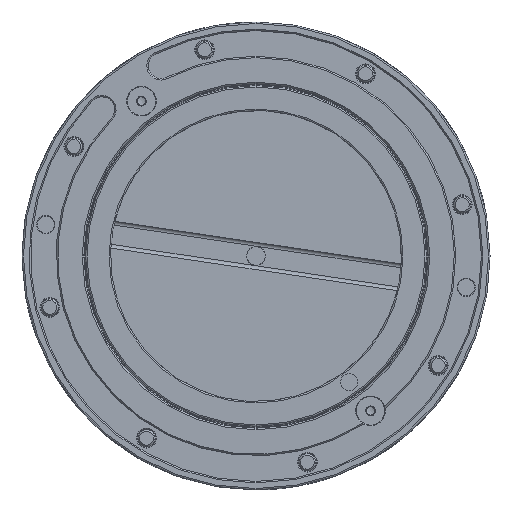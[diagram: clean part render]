
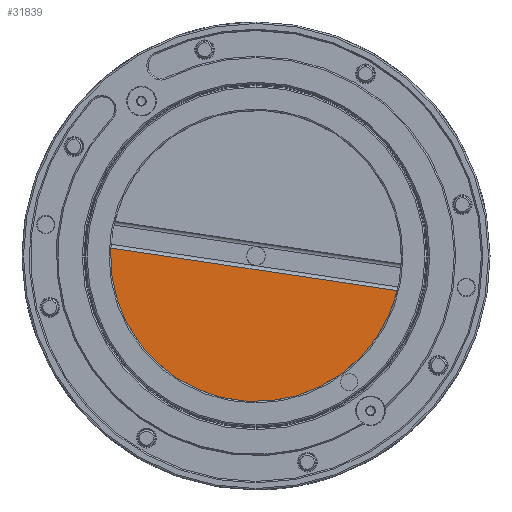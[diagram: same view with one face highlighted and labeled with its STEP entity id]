
A CAD part, front view. The second image highlights one B-rep face of the part: STEP entity #31839.
In plain terms, the highlighted planar face has unit normal (0, -1, 0).
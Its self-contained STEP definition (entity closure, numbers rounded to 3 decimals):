
#1278 = ORIENTED_EDGE ( 'NONE', *, *, #27400, .T. ) ;
#2157 = EDGE_LOOP ( 'NONE', ( #41761, #1278 ) ) ;
#4261 = VERTEX_POINT ( 'NONE', #34700 ) ;
#6732 = VECTOR ( 'NONE', #37713, 1000. ) ;
#7613 = AXIS2_PLACEMENT_3D ( 'NONE', #36793, #16376, #40212 ) ;
#9201 = CIRCLE ( 'NONE', #19616, 51. ) ;
#13878 = CARTESIAN_POINT ( 'NONE',  ( -255.058, -12.858, 167.807 ) ) ;
#15166 = DIRECTION ( 'NONE',  ( 0., 1., 0. ) ) ;
#16376 = DIRECTION ( 'NONE',  ( 0., -1., 0. ) ) ;
#19616 = AXIS2_PLACEMENT_3D ( 'NONE', #35562, #15166, #38995 ) ;
#23158 = PLANE ( 'NONE',  #7613 ) ;
#24933 = LINE ( 'NONE', #13878, #6732 ) ;
#27400 = EDGE_CURVE ( 'NONE', #4261, #42514, #24933, .T. ) ;
#29214 = FACE_OUTER_BOUND ( 'NONE', #2157, .T. ) ;
#31839 = ADVANCED_FACE ( 'NONE', ( #29214 ), #23158, .T. ) ;
#34700 = CARTESIAN_POINT ( 'NONE',  ( -147.962, -12.858, 151.835 ) ) ;
#35300 = CARTESIAN_POINT ( 'NONE',  ( -248.412, -12.858, 166.815 ) ) ;
#35562 = CARTESIAN_POINT ( 'NONE',  ( -197.49, -12.858, 164. ) ) ;
#36793 = CARTESIAN_POINT ( 'NONE',  ( -193.728, -12.858, 189.221 ) ) ;
#37713 = DIRECTION ( 'NONE',  ( -0.989, 0., 0.148 ) ) ;
#37853 = EDGE_CURVE ( 'NONE', #4261, #42514, #9201, .T. ) ;
#38995 = DIRECTION ( 'NONE',  ( 0.989, 0., -0.148 ) ) ;
#40212 = DIRECTION ( 'NONE',  ( 0.989, 0., -0.148 ) ) ;
#41761 = ORIENTED_EDGE ( 'NONE', *, *, #37853, .F. ) ;
#42514 = VERTEX_POINT ( 'NONE', #35300 ) ;
